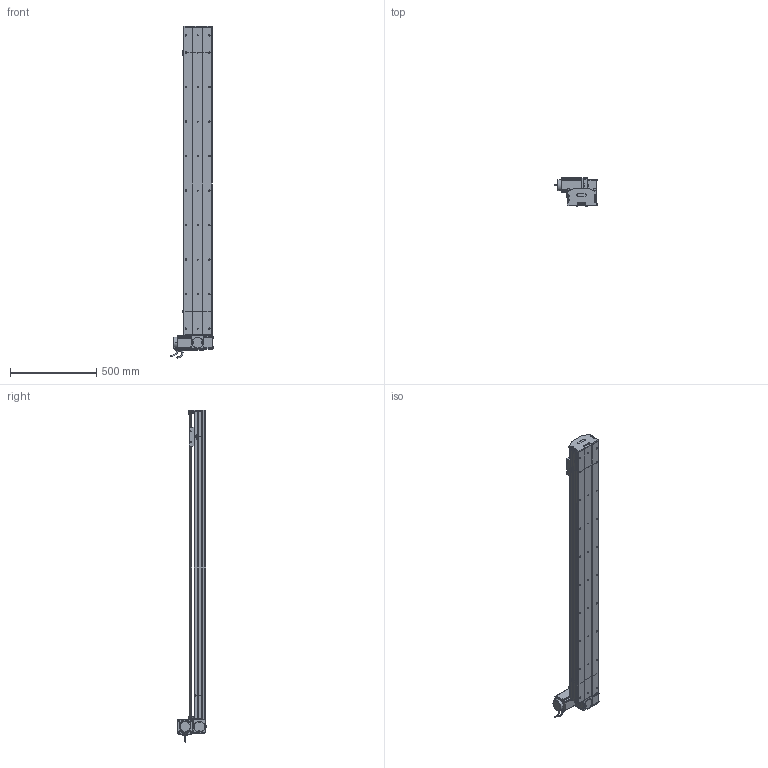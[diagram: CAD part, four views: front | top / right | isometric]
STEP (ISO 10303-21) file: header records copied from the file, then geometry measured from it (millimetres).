
FILE_DESCRIPTION (( 'STEP AP214' ), '1' );
FILE_NAME ('D17 TBN LT S1500.STEP', '2010-06-30T10:56:58', ( 'Christophe Gaillard' ), ( 'SGA' ), 'SwSTEP 2.0', 'SolidWorks 2010', '' );
FILE_SCHEMA (( 'AUTOMOTIVE_DESIGN' ));
Length unit declared in the file: millimetre
Products named in the file (40): vis M5 L12_Default; cache arbre D17_Default; couroie head D17_Default; Renvoi LT_Default; Moteur motionking 90BLDC125A-640; avant 90BLDC125A-640; corps 90BLDC125A-640; codeur 90BLDC125-640; Plaque racord D17_Default; Conecteur2_Default; Conecteur_Default; vis M5 L70_Default; vis M5 L16_Default; Vis M5 L16-2_Default; Tail D17B+100_Default; corp tail D17B+100_Default; Chariot D17 TBN; chariot D17 TBN; guide D17; tete d''axe poulie D17B; Rail D17B; plaque de  bout tail D17B_Default; D17 TBN LT S1500; course 1500 D17B_Default; Couroie+ rail D17 Course 1500 ; Couroie tail D17B_Default; poulie tail_Default; couvercle D17B_Default; corp D17B 1500_Default; vis M5 L8 90°_Default; Head LT D17B_Default; plaque de  bout head D17B LT_Default; corpl head D17 _Default; couvercle D17B head_Default; Arbre+rail head D17B; cache D17_Default; vis M5 L5_Default; poulie head_Default; couvercle D17B course L1500_Default; vis M5 L25_Default
Assembly tree (66 placements, depth 4):
  D17 TBN LT S1500
    chariot D17 TBN
      Chariot D17 TBN
      guide D17  x2
    course 1500 D17B_Default
      corp D17B 1500_Default
      Couroie+ rail D17 Course 1500 
      couvercle D17B course L1500_Default
    Head LT D17B_Default
      couvercle D17B head_Default
      vis M5 L5_Default  x4
      plaque de  bout head D17B LT_Default
      vis M5 L12_Default  x8
      vis M5 L25_Default  x2
      vis M5 L16_Default  x2
      cache arbre D17_Default
      Renvoi LT_Default
      Vis M5 L16-2_Default  x4
      Arbre+rail head D17B
      Plaque racord D17_Default
      corpl head D17 _Default
      Moteur motionking 90BLDC125A-640
        codeur 90BLDC125-640
        avant 90BLDC125A-640
        Conecteur2_Default
        corps 90BLDC125A-640
        Conecteur_Default
      vis M5 L70_Default  x4
      cache D17_Default  x2
      poulie head_Default
      couroie head D17_Default
    Tail D17B+100_Default
      vis M5 L8 90°_Default  x2
      corp tail D17B+100_Default
      vis M5 L25_Default  x2
      tete d''axe poulie D17B
      Rail D17B
      vis M5 L12_Default  x4
      plaque de  bout tail D17B_Default
      poulie tail_Default
      Couroie tail D17B_Default
      couvercle D17B_Default
Bounding box: 245.2 x 166.15 x 1923.95 mm (x, y, z)
Volume: 11589018.3 mm3; surface area: 3303626.3 mm2
Topology: 89 solids, 89 shells, 2571 faces, 6535 edges, 4214 vertices
Faces by surface type: plane 1537, cylinder 737, bspline 136, cone 80, torus 77, sphere 4
Entity records: 83085 total; most frequent: CARTESIAN_POINT 24821, ORIENTED_EDGE 10242, DIRECTION 9678, EDGE_CURVE 5121, LINE 3428, VECTOR 3428, VERTEX_POINT 3358, AXIS2_PLACEMENT_3D 3125
